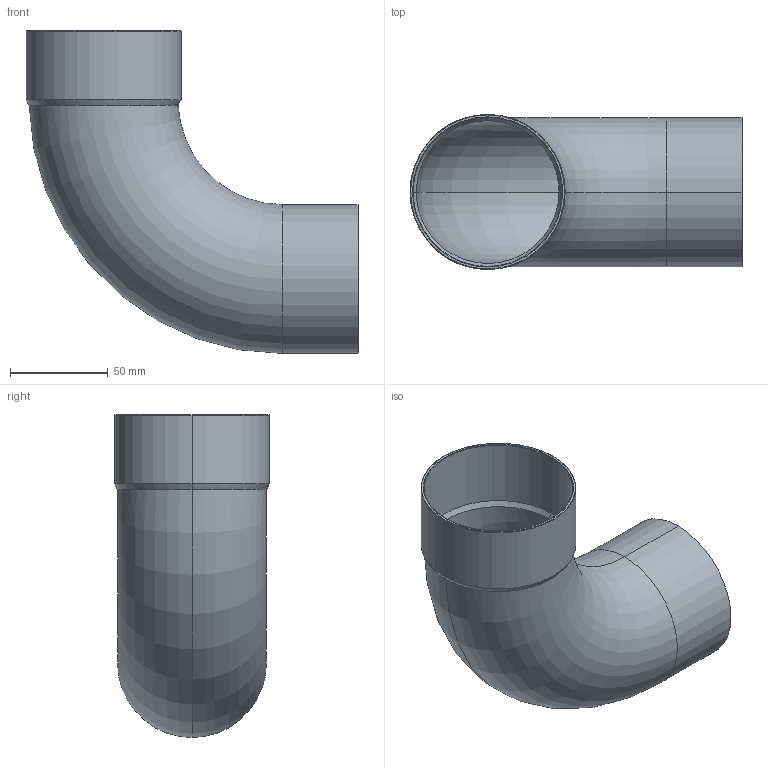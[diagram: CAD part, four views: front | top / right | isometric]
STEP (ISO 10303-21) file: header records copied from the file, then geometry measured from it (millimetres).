
FILE_DESCRIPTION((''),'2;1');
FILE_NAME('P:\Bouwmaten\z-maattekeningen 3D\5000\5001a\15001a76.stp','2005-10-04T15:01:17',('Kris'),(''),'Autodesk Inventor 8','Autodesk Inventor 8','');
FILE_SCHEMA(('AUTOMOTIVE_DESIGN { 1 0 10303 214 1 1 1 1 }'));
Length unit declared in the file: millimetre
Products named in the file (1): 15001a76
Bounding box: 169.65 x 79.3 x 165.05 mm (x, y, z)
Volume: 82293.2 mm3; surface area: 103573.2 mm2
Topology: 1 solids, 1 shells, 22 faces, 46 edges, 26 vertices
Faces by surface type: cone 8, cylinder 8, torus 4, plane 2
Entity records: 683 total; most frequent: CARTESIAN_POINT 175, DIRECTION 114, ORIENTED_EDGE 92, AXIS2_PLACEMENT_3D 49, EDGE_CURVE 46, VERTEX_POINT 26, CIRCLE 26, EDGE_LOOP 24
